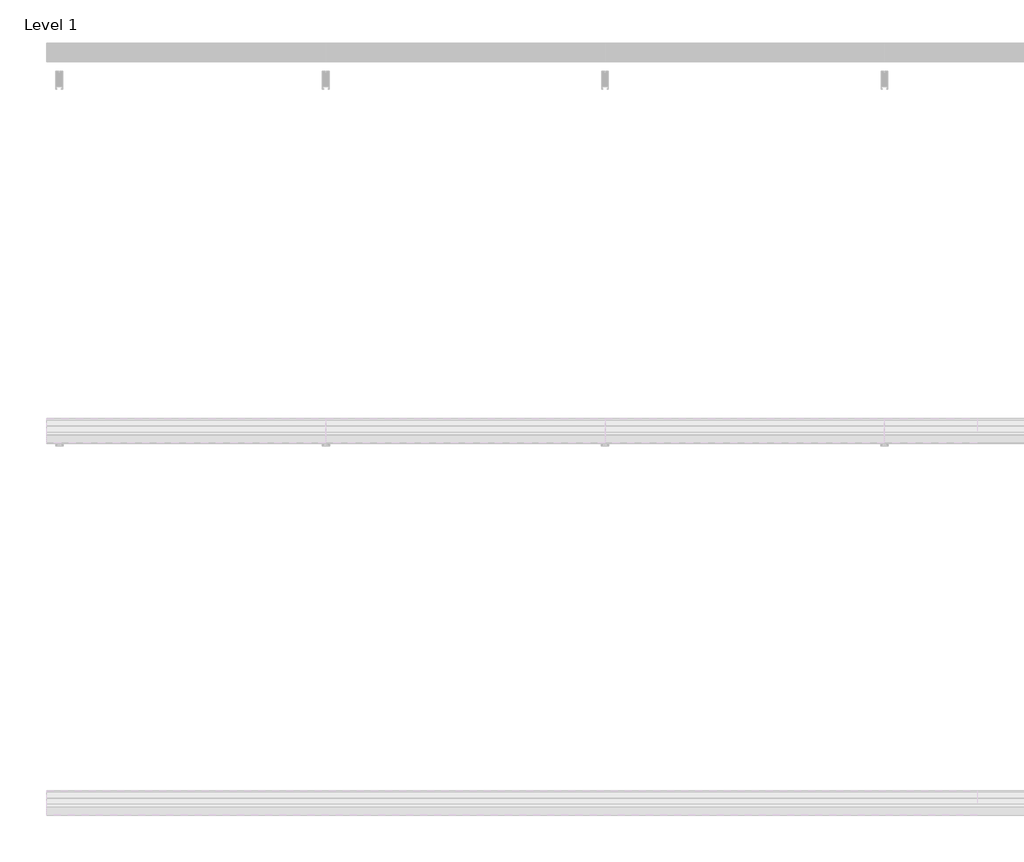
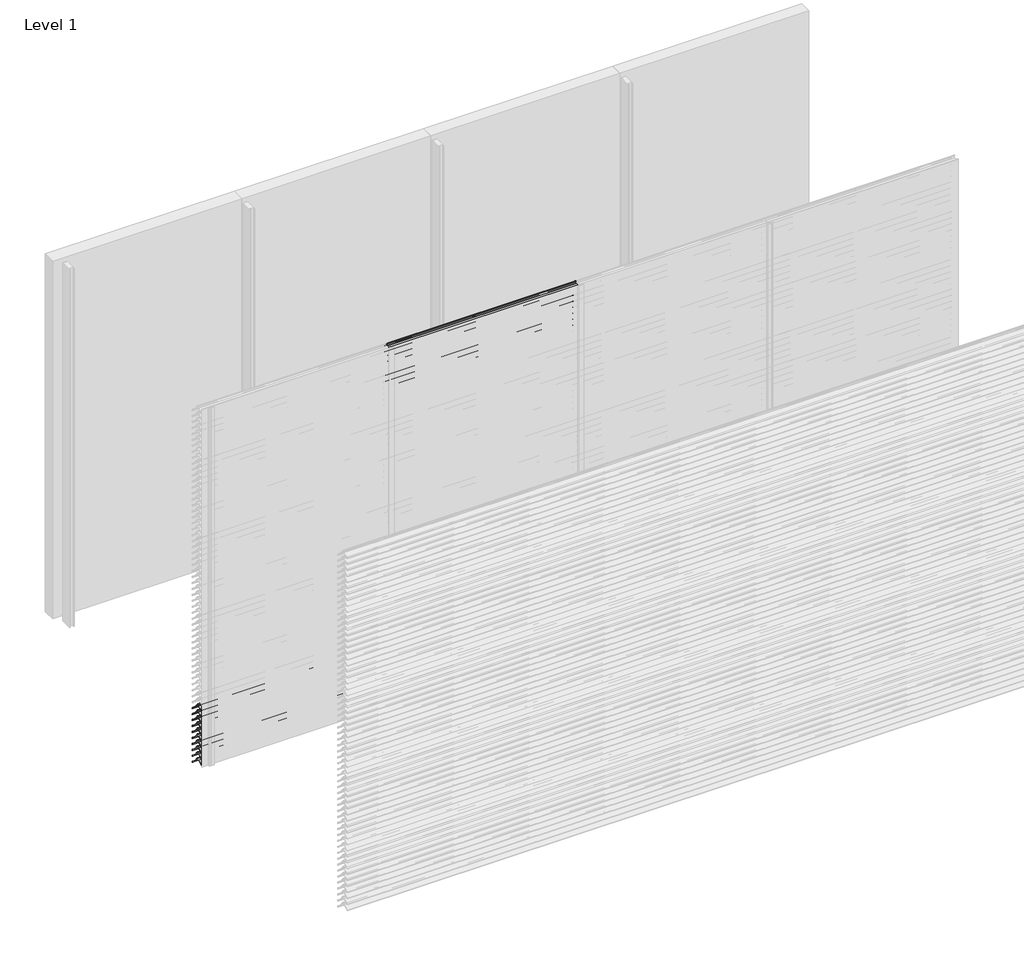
# One storey, part 95 of 173: 18 proxies.
"""IFC4 building model written with IfcOpenShell, lengths in millimetres."""

from ifc_helpers import new_model, si_unit, point, frame, frame_2d, origin, place, context, project, spatial, polyline, circle_curve, trimmed, segment, composite_curve, outline, extrude, element, save

model = new_model("IFC4")

# Units and contexts
model_context = context("Model", 3, world=origin())
ifc_project = project(units=[si_unit("LENGTHUNIT", "METRE", prefix="MILLI")], contexts=[model_context])

# Site, building, storey
site = spatial("IfcSite", under=ifc_project)
building = spatial("IfcBuilding", under=site)
storey = spatial("IfcBuildingStorey", under=building, Name="Level 1", Elevation=0.0)

# Proxies
placement = place(None, origin())
element("IfcBuildingElementProxy", 1, Name="Wall Sweeps", at=placement, inside=storey, context=model_context, shape_type="SweptSolid", body=[
    extrude(outline(composite_curve([segment(polyline([(-23998.0, 459.1474905), (-23998.0, 461.6227417)]), True, "CONTINUOUS"), segment(trimmed(circle_curve(frame_2d((-23951.2682172, 416.2200208)), 65.1557103), [point((-23998.0, 461.6227417))], [point((-23954.4014323, 481.3003524))], False, "CARTESIAN"), True, "CONTINUOUS"), segment(polyline([(-23954.4014323, 481.3003524), (-23934.8315836, 481.3003524)]), True, "CONTINUOUS"), segment(trimmed(circle_curve(frame_2d((-23732.7329489, 628.5533172)), 250.0545817), [point((-23934.8315836, 481.3003524))], [point((-23941.4452143, 490.8344583))], False, "CARTESIAN"), True, "CONTINUOUS"), segment(trimmed(circle_curve(frame_2d((-23953.2981792, 485.1737835)), 13.1352966), [point((-23941.4452143, 490.8344583))], [point((-23953.8171475, 498.298824))], True, "CARTESIAN"), True, "CONTINUOUS"), segment(polyline([(-23953.8171475, 498.298824), (-23953.8171475, 500.0)]), True, "CONTINUOUS"), segment(trimmed(circle_curve(frame_2d((-23953.2981792, 485.1737835)), 14.8352966), [point((-23953.8171475, 500.0))], [point((-23939.9637661, 491.6760487))], False, "CARTESIAN"), True, "CONTINUOUS"), segment(trimmed(circle_curve(frame_2d((-23732.7329489, 628.5533172)), 248.3545817), [point((-23939.9637661, 491.6760487))], [point((-23873.8787895, 424.2059416))], True, "CARTESIAN"), True, "CONTINUOUS"), segment(trimmed(circle_curve(frame_2d((-23883.8147537, 411.6649442)), 16.0), [point((-23873.8787895, 424.2059416))], [point((-23867.8648347, 410.4))], False, "CARTESIAN"), True, "CONTINUOUS"), segment(polyline([(-23867.8648347, 410.4), (-23869.6712069, 410.4)]), True, "CONTINUOUS"), segment(trimmed(circle_curve(frame_2d((-23883.8147537, 411.6649442)), 14.2), [point((-23869.6712069, 410.4))], [point((-23874.9518628, 422.7594998))], True, "CARTESIAN"), True, "CONTINUOUS"), segment(trimmed(circle_curve(frame_2d((-23732.7329489, 628.5533172)), 250.1545817), [point((-23874.9518628, 422.7594998))], [point((-23933.7064024, 479.6003524))], False, "CARTESIAN"), True, "CONTINUOUS"), segment(polyline([(-23933.7064024, 479.6003524), (-23954.3602632, 479.6003524)]), True, "CONTINUOUS"), segment(trimmed(circle_curve(frame_2d((-23951.2682172, 416.2200208)), 63.4557103), [point((-23954.3602632, 479.6003524))], [point((-23998.0, 459.1474905))], True, "CARTESIAN"), True, "CONTINUOUS")], self_intersect=False)), frame((0.0, 0.0, 0.0), z_axis=(1.0, 0.0, 0.0), x_axis=(0.0, 1.0, 0.0)), (0.0, 0.0, 1.0), 1500.0),
])
element("IfcBuildingElementProxy", 2, Name="Wall Sweeps", at=placement, inside=storey, context=model_context, shape_type="SweptSolid", body=[
    extrude(outline(composite_curve([segment(polyline([(-23998.0, 409.1474905), (-23998.0, 411.6227417)]), True, "CONTINUOUS"), segment(trimmed(circle_curve(frame_2d((-23951.2682172, 366.2200208)), 65.1557103), [point((-23998.0, 411.6227417))], [point((-23954.4014323, 431.3003524))], False, "CARTESIAN"), True, "CONTINUOUS"), segment(polyline([(-23954.4014323, 431.3003524), (-23934.8315836, 431.3003524)]), True, "CONTINUOUS"), segment(trimmed(circle_curve(frame_2d((-23732.7329489, 578.5533172)), 250.0545817), [point((-23934.8315836, 431.3003524))], [point((-23941.4452143, 440.8344583))], False, "CARTESIAN"), True, "CONTINUOUS"), segment(trimmed(circle_curve(frame_2d((-23953.2981792, 435.1737835)), 13.1352966), [point((-23941.4452143, 440.8344583))], [point((-23953.8171475, 448.298824))], True, "CARTESIAN"), True, "CONTINUOUS"), segment(polyline([(-23953.8171475, 448.298824), (-23953.8171475, 450.0)]), True, "CONTINUOUS"), segment(trimmed(circle_curve(frame_2d((-23953.2981792, 435.1737835)), 14.8352966), [point((-23953.8171475, 450.0))], [point((-23939.9637661, 441.6760487))], False, "CARTESIAN"), True, "CONTINUOUS"), segment(trimmed(circle_curve(frame_2d((-23732.7329489, 578.5533172)), 248.3545817), [point((-23939.9637661, 441.6760487))], [point((-23873.8787895, 374.2059416))], True, "CARTESIAN"), True, "CONTINUOUS"), segment(trimmed(circle_curve(frame_2d((-23883.8147537, 361.6649442)), 16.0), [point((-23873.8787895, 374.2059416))], [point((-23867.8648347, 360.4))], False, "CARTESIAN"), True, "CONTINUOUS"), segment(polyline([(-23867.8648347, 360.4), (-23869.6712069, 360.4)]), True, "CONTINUOUS"), segment(trimmed(circle_curve(frame_2d((-23883.8147537, 361.6649442)), 14.2), [point((-23869.6712069, 360.4))], [point((-23874.9518628, 372.7594998))], True, "CARTESIAN"), True, "CONTINUOUS"), segment(trimmed(circle_curve(frame_2d((-23732.7329489, 578.5533172)), 250.1545817), [point((-23874.9518628, 372.7594998))], [point((-23933.7064024, 429.6003524))], False, "CARTESIAN"), True, "CONTINUOUS"), segment(polyline([(-23933.7064024, 429.6003524), (-23954.3602632, 429.6003524)]), True, "CONTINUOUS"), segment(trimmed(circle_curve(frame_2d((-23951.2682172, 366.2200208)), 63.4557103), [point((-23954.3602632, 429.6003524))], [point((-23998.0, 409.1474905))], True, "CARTESIAN"), True, "CONTINUOUS")], self_intersect=False)), frame((0.0, 0.0, 0.0), z_axis=(1.0, 0.0, 0.0), x_axis=(0.0, 1.0, 0.0)), (0.0, 0.0, 1.0), 1500.0),
])
element("IfcBuildingElementProxy", 3, Name="Wall Sweeps", at=placement, inside=storey, context=model_context, shape_type="SweptSolid", body=[
    extrude(outline(composite_curve([segment(polyline([(-23998.0, 359.1474905), (-23998.0, 361.6227417)]), True, "CONTINUOUS"), segment(trimmed(circle_curve(frame_2d((-23951.2682172, 316.2200208)), 65.1557103), [point((-23998.0, 361.6227417))], [point((-23954.4014323, 381.3003524))], False, "CARTESIAN"), True, "CONTINUOUS"), segment(polyline([(-23954.4014323, 381.3003524), (-23934.8315836, 381.3003524)]), True, "CONTINUOUS"), segment(trimmed(circle_curve(frame_2d((-23732.7329489, 528.5533172)), 250.0545817), [point((-23934.8315836, 381.3003524))], [point((-23941.4452143, 390.8344583))], False, "CARTESIAN"), True, "CONTINUOUS"), segment(trimmed(circle_curve(frame_2d((-23953.2981792, 385.1737835)), 13.1352966), [point((-23941.4452143, 390.8344583))], [point((-23953.8171475, 398.298824))], True, "CARTESIAN"), True, "CONTINUOUS"), segment(polyline([(-23953.8171475, 398.298824), (-23953.8171475, 400.0)]), True, "CONTINUOUS"), segment(trimmed(circle_curve(frame_2d((-23953.2981792, 385.1737835)), 14.8352966), [point((-23953.8171475, 400.0))], [point((-23939.9637661, 391.6760487))], False, "CARTESIAN"), True, "CONTINUOUS"), segment(trimmed(circle_curve(frame_2d((-23732.7329489, 528.5533172)), 248.3545817), [point((-23939.9637661, 391.6760487))], [point((-23873.8787895, 324.2059416))], True, "CARTESIAN"), True, "CONTINUOUS"), segment(trimmed(circle_curve(frame_2d((-23883.8147537, 311.6649442)), 16.0), [point((-23873.8787895, 324.2059416))], [point((-23867.8648347, 310.4))], False, "CARTESIAN"), True, "CONTINUOUS"), segment(polyline([(-23867.8648347, 310.4), (-23869.6712069, 310.4)]), True, "CONTINUOUS"), segment(trimmed(circle_curve(frame_2d((-23883.8147537, 311.6649442)), 14.2), [point((-23869.6712069, 310.4))], [point((-23874.9518628, 322.7594998))], True, "CARTESIAN"), True, "CONTINUOUS"), segment(trimmed(circle_curve(frame_2d((-23732.7329489, 528.5533172)), 250.1545817), [point((-23874.9518628, 322.7594998))], [point((-23933.7064024, 379.6003524))], False, "CARTESIAN"), True, "CONTINUOUS"), segment(polyline([(-23933.7064024, 379.6003524), (-23954.3602632, 379.6003524)]), True, "CONTINUOUS"), segment(trimmed(circle_curve(frame_2d((-23951.2682172, 316.2200208)), 63.4557103), [point((-23954.3602632, 379.6003524))], [point((-23998.0, 359.1474905))], True, "CARTESIAN"), True, "CONTINUOUS")], self_intersect=False)), frame((0.0, 0.0, 0.0), z_axis=(1.0, 0.0, 0.0), x_axis=(0.0, 1.0, 0.0)), (0.0, 0.0, 1.0), 1500.0),
])
element("IfcBuildingElementProxy", 4, Name="Wall Sweeps", at=placement, inside=storey, context=model_context, shape_type="SweptSolid", body=[
    extrude(outline(composite_curve([segment(polyline([(-23998.0, 309.1474905), (-23998.0, 311.6227417)]), True, "CONTINUOUS"), segment(trimmed(circle_curve(frame_2d((-23951.2682172, 266.2200208)), 65.1557103), [point((-23998.0, 311.6227417))], [point((-23954.4014323, 331.3003524))], False, "CARTESIAN"), True, "CONTINUOUS"), segment(polyline([(-23954.4014323, 331.3003524), (-23934.8315836, 331.3003524)]), True, "CONTINUOUS"), segment(trimmed(circle_curve(frame_2d((-23732.7329489, 478.5533172)), 250.0545817), [point((-23934.8315836, 331.3003524))], [point((-23941.4452143, 340.8344583))], False, "CARTESIAN"), True, "CONTINUOUS"), segment(trimmed(circle_curve(frame_2d((-23953.2981792, 335.1737835)), 13.1352966), [point((-23941.4452143, 340.8344583))], [point((-23953.8171475, 348.298824))], True, "CARTESIAN"), True, "CONTINUOUS"), segment(polyline([(-23953.8171475, 348.298824), (-23953.8171475, 350.0)]), True, "CONTINUOUS"), segment(trimmed(circle_curve(frame_2d((-23953.2981792, 335.1737835)), 14.8352966), [point((-23953.8171475, 350.0))], [point((-23939.9637661, 341.6760487))], False, "CARTESIAN"), True, "CONTINUOUS"), segment(trimmed(circle_curve(frame_2d((-23732.7329489, 478.5533172)), 248.3545817), [point((-23939.9637661, 341.6760487))], [point((-23873.8787895, 274.2059416))], True, "CARTESIAN"), True, "CONTINUOUS"), segment(trimmed(circle_curve(frame_2d((-23883.8147537, 261.6649442)), 16.0), [point((-23873.8787895, 274.2059416))], [point((-23867.8648347, 260.4))], False, "CARTESIAN"), True, "CONTINUOUS"), segment(polyline([(-23867.8648347, 260.4), (-23869.6712069, 260.4)]), True, "CONTINUOUS"), segment(trimmed(circle_curve(frame_2d((-23883.8147537, 261.6649442)), 14.2), [point((-23869.6712069, 260.4))], [point((-23874.9518628, 272.7594998))], True, "CARTESIAN"), True, "CONTINUOUS"), segment(trimmed(circle_curve(frame_2d((-23732.7329489, 478.5533172)), 250.1545817), [point((-23874.9518628, 272.7594998))], [point((-23933.7064024, 329.6003524))], False, "CARTESIAN"), True, "CONTINUOUS"), segment(polyline([(-23933.7064024, 329.6003524), (-23954.3602632, 329.6003524)]), True, "CONTINUOUS"), segment(trimmed(circle_curve(frame_2d((-23951.2682172, 266.2200208)), 63.4557103), [point((-23954.3602632, 329.6003524))], [point((-23998.0, 309.1474905))], True, "CARTESIAN"), True, "CONTINUOUS")], self_intersect=False)), frame((0.0, 0.0, 0.0), z_axis=(1.0, 0.0, 0.0), x_axis=(0.0, 1.0, 0.0)), (0.0, 0.0, 1.0), 1500.0),
])
element("IfcBuildingElementProxy", 5, Name="Wall Sweeps", at=placement, inside=storey, context=model_context, shape_type="SweptSolid", body=[
    extrude(outline(composite_curve([segment(polyline([(-23998.0, 259.1474905), (-23998.0, 261.6227417)]), True, "CONTINUOUS"), segment(trimmed(circle_curve(frame_2d((-23951.2682172, 216.2200208)), 65.1557103), [point((-23998.0, 261.6227417))], [point((-23954.4014323, 281.3003524))], False, "CARTESIAN"), True, "CONTINUOUS"), segment(polyline([(-23954.4014323, 281.3003524), (-23934.8315836, 281.3003524)]), True, "CONTINUOUS"), segment(trimmed(circle_curve(frame_2d((-23732.7329489, 428.5533172)), 250.0545817), [point((-23934.8315836, 281.3003524))], [point((-23941.4452143, 290.8344583))], False, "CARTESIAN"), True, "CONTINUOUS"), segment(trimmed(circle_curve(frame_2d((-23953.2981792, 285.1737835)), 13.1352966), [point((-23941.4452143, 290.8344583))], [point((-23953.8171475, 298.298824))], True, "CARTESIAN"), True, "CONTINUOUS"), segment(polyline([(-23953.8171475, 298.298824), (-23953.8171475, 300.0)]), True, "CONTINUOUS"), segment(trimmed(circle_curve(frame_2d((-23953.2981792, 285.1737835)), 14.8352966), [point((-23953.8171475, 300.0))], [point((-23939.9637661, 291.6760487))], False, "CARTESIAN"), True, "CONTINUOUS"), segment(trimmed(circle_curve(frame_2d((-23732.7329489, 428.5533172)), 248.3545817), [point((-23939.9637661, 291.6760487))], [point((-23873.8787895, 224.2059416))], True, "CARTESIAN"), True, "CONTINUOUS"), segment(trimmed(circle_curve(frame_2d((-23883.8147537, 211.6649442)), 16.0), [point((-23873.8787895, 224.2059416))], [point((-23867.8648347, 210.4))], False, "CARTESIAN"), True, "CONTINUOUS"), segment(polyline([(-23867.8648347, 210.4), (-23869.6712069, 210.4)]), True, "CONTINUOUS"), segment(trimmed(circle_curve(frame_2d((-23883.8147537, 211.6649442)), 14.2), [point((-23869.6712069, 210.4))], [point((-23874.9518628, 222.7594998))], True, "CARTESIAN"), True, "CONTINUOUS"), segment(trimmed(circle_curve(frame_2d((-23732.7329489, 428.5533172)), 250.1545817), [point((-23874.9518628, 222.7594998))], [point((-23933.7064024, 279.6003524))], False, "CARTESIAN"), True, "CONTINUOUS"), segment(polyline([(-23933.7064024, 279.6003524), (-23954.3602632, 279.6003524)]), True, "CONTINUOUS"), segment(trimmed(circle_curve(frame_2d((-23951.2682172, 216.2200208)), 63.4557103), [point((-23954.3602632, 279.6003524))], [point((-23998.0, 259.1474905))], True, "CARTESIAN"), True, "CONTINUOUS")], self_intersect=False)), frame((0.0, 0.0, 0.0), z_axis=(1.0, 0.0, 0.0), x_axis=(0.0, 1.0, 0.0)), (0.0, 0.0, 1.0), 1500.0),
])
element("IfcBuildingElementProxy", 6, Name="Wall Sweeps", at=placement, inside=storey, context=model_context, shape_type="SweptSolid", body=[
    extrude(outline(composite_curve([segment(polyline([(-23998.0, 209.1474905), (-23998.0, 211.6227417)]), True, "CONTINUOUS"), segment(trimmed(circle_curve(frame_2d((-23951.2682172, 166.2200208)), 65.1557103), [point((-23998.0, 211.6227417))], [point((-23954.4014323, 231.3003524))], False, "CARTESIAN"), True, "CONTINUOUS"), segment(polyline([(-23954.4014323, 231.3003524), (-23934.8315836, 231.3003524)]), True, "CONTINUOUS"), segment(trimmed(circle_curve(frame_2d((-23732.7329489, 378.5533172)), 250.0545817), [point((-23934.8315836, 231.3003524))], [point((-23941.4452143, 240.8344583))], False, "CARTESIAN"), True, "CONTINUOUS"), segment(trimmed(circle_curve(frame_2d((-23953.2981792, 235.1737835)), 13.1352966), [point((-23941.4452143, 240.8344583))], [point((-23953.8171475, 248.298824))], True, "CARTESIAN"), True, "CONTINUOUS"), segment(polyline([(-23953.8171475, 248.298824), (-23953.8171475, 250.0)]), True, "CONTINUOUS"), segment(trimmed(circle_curve(frame_2d((-23953.2981792, 235.1737835)), 14.8352966), [point((-23953.8171475, 250.0))], [point((-23939.9637661, 241.6760487))], False, "CARTESIAN"), True, "CONTINUOUS"), segment(trimmed(circle_curve(frame_2d((-23732.7329489, 378.5533172)), 248.3545817), [point((-23939.9637661, 241.6760487))], [point((-23873.8787895, 174.2059416))], True, "CARTESIAN"), True, "CONTINUOUS"), segment(trimmed(circle_curve(frame_2d((-23883.8147537, 161.6649442)), 16.0), [point((-23873.8787895, 174.2059416))], [point((-23867.8648347, 160.4))], False, "CARTESIAN"), True, "CONTINUOUS"), segment(polyline([(-23867.8648347, 160.4), (-23869.6712069, 160.4)]), True, "CONTINUOUS"), segment(trimmed(circle_curve(frame_2d((-23883.8147537, 161.6649442)), 14.2), [point((-23869.6712069, 160.4))], [point((-23874.9518628, 172.7594998))], True, "CARTESIAN"), True, "CONTINUOUS"), segment(trimmed(circle_curve(frame_2d((-23732.7329489, 378.5533172)), 250.1545817), [point((-23874.9518628, 172.7594998))], [point((-23933.7064024, 229.6003524))], False, "CARTESIAN"), True, "CONTINUOUS"), segment(polyline([(-23933.7064024, 229.6003524), (-23954.3602632, 229.6003524)]), True, "CONTINUOUS"), segment(trimmed(circle_curve(frame_2d((-23951.2682172, 166.2200208)), 63.4557103), [point((-23954.3602632, 229.6003524))], [point((-23998.0, 209.1474905))], True, "CARTESIAN"), True, "CONTINUOUS")], self_intersect=False)), frame((0.0, 0.0, 0.0), z_axis=(1.0, 0.0, 0.0), x_axis=(0.0, 1.0, 0.0)), (0.0, 0.0, 1.0), 1500.0),
])
element("IfcBuildingElementProxy", 7, Name="Wall Sweeps", at=placement, inside=storey, context=model_context, shape_type="SweptSolid", body=[
    extrude(outline(composite_curve([segment(polyline([(-23998.0, 159.1474905), (-23998.0, 161.6227417)]), True, "CONTINUOUS"), segment(trimmed(circle_curve(frame_2d((-23951.2682172, 116.2200208)), 65.1557103), [point((-23998.0, 161.6227417))], [point((-23954.4014323, 181.3003524))], False, "CARTESIAN"), True, "CONTINUOUS"), segment(polyline([(-23954.4014323, 181.3003524), (-23934.8315836, 181.3003524)]), True, "CONTINUOUS"), segment(trimmed(circle_curve(frame_2d((-23732.7329489, 328.5533172)), 250.0545817), [point((-23934.8315836, 181.3003524))], [point((-23941.4452143, 190.8344583))], False, "CARTESIAN"), True, "CONTINUOUS"), segment(trimmed(circle_curve(frame_2d((-23953.2981792, 185.1737835)), 13.1352966), [point((-23941.4452143, 190.8344583))], [point((-23953.8171475, 198.298824))], True, "CARTESIAN"), True, "CONTINUOUS"), segment(polyline([(-23953.8171475, 198.298824), (-23953.8171475, 200.0)]), True, "CONTINUOUS"), segment(trimmed(circle_curve(frame_2d((-23953.2981792, 185.1737835)), 14.8352966), [point((-23953.8171475, 200.0))], [point((-23939.9637661, 191.6760487))], False, "CARTESIAN"), True, "CONTINUOUS"), segment(trimmed(circle_curve(frame_2d((-23732.7329489, 328.5533172)), 248.3545817), [point((-23939.9637661, 191.6760487))], [point((-23873.8787895, 124.2059416))], True, "CARTESIAN"), True, "CONTINUOUS"), segment(trimmed(circle_curve(frame_2d((-23883.8147537, 111.6649442)), 16.0), [point((-23873.8787895, 124.2059416))], [point((-23867.8648347, 110.4))], False, "CARTESIAN"), True, "CONTINUOUS"), segment(polyline([(-23867.8648347, 110.4), (-23869.6712069, 110.4)]), True, "CONTINUOUS"), segment(trimmed(circle_curve(frame_2d((-23883.8147537, 111.6649442)), 14.2), [point((-23869.6712069, 110.4))], [point((-23874.9518628, 122.7594998))], True, "CARTESIAN"), True, "CONTINUOUS"), segment(trimmed(circle_curve(frame_2d((-23732.7329489, 328.5533172)), 250.1545817), [point((-23874.9518628, 122.7594998))], [point((-23933.7064024, 179.6003524))], False, "CARTESIAN"), True, "CONTINUOUS"), segment(polyline([(-23933.7064024, 179.6003524), (-23954.3602632, 179.6003524)]), True, "CONTINUOUS"), segment(trimmed(circle_curve(frame_2d((-23951.2682172, 116.2200208)), 63.4557103), [point((-23954.3602632, 179.6003524))], [point((-23998.0, 159.1474905))], True, "CARTESIAN"), True, "CONTINUOUS")], self_intersect=False)), frame((0.0, 0.0, 0.0), z_axis=(1.0, 0.0, 0.0), x_axis=(0.0, 1.0, 0.0)), (0.0, 0.0, 1.0), 1500.0),
])
element("IfcBuildingElementProxy", 8, Name="Wall Sweeps", at=placement, inside=storey, context=model_context, shape_type="SweptSolid", body=[
    extrude(outline(composite_curve([segment(polyline([(-23998.0, 109.1474905), (-23998.0, 111.6227417)]), True, "CONTINUOUS"), segment(trimmed(circle_curve(frame_2d((-23951.2682172, 66.2200208)), 65.1557103), [point((-23998.0, 111.6227417))], [point((-23954.4014323, 131.3003524))], False, "CARTESIAN"), True, "CONTINUOUS"), segment(polyline([(-23954.4014323, 131.3003524), (-23934.8315836, 131.3003524)]), True, "CONTINUOUS"), segment(trimmed(circle_curve(frame_2d((-23732.7329489, 278.5533172)), 250.0545817), [point((-23934.8315836, 131.3003524))], [point((-23941.4452143, 140.8344583))], False, "CARTESIAN"), True, "CONTINUOUS"), segment(trimmed(circle_curve(frame_2d((-23953.2981792, 135.1737835)), 13.1352966), [point((-23941.4452143, 140.8344583))], [point((-23953.8171475, 148.298824))], True, "CARTESIAN"), True, "CONTINUOUS"), segment(polyline([(-23953.8171475, 148.298824), (-23953.8171475, 150.0)]), True, "CONTINUOUS"), segment(trimmed(circle_curve(frame_2d((-23953.2981792, 135.1737835)), 14.8352966), [point((-23953.8171475, 150.0))], [point((-23939.9637661, 141.6760487))], False, "CARTESIAN"), True, "CONTINUOUS"), segment(trimmed(circle_curve(frame_2d((-23732.7329489, 278.5533172)), 248.3545817), [point((-23939.9637661, 141.6760487))], [point((-23873.8787895, 74.2059416))], True, "CARTESIAN"), True, "CONTINUOUS"), segment(trimmed(circle_curve(frame_2d((-23883.8147537, 61.6649442)), 16.0), [point((-23873.8787895, 74.2059416))], [point((-23867.8648347, 60.4))], False, "CARTESIAN"), True, "CONTINUOUS"), segment(polyline([(-23867.8648347, 60.4), (-23869.6712069, 60.4)]), True, "CONTINUOUS"), segment(trimmed(circle_curve(frame_2d((-23883.8147537, 61.6649442)), 14.2), [point((-23869.6712069, 60.4))], [point((-23874.9518628, 72.7594998))], True, "CARTESIAN"), True, "CONTINUOUS"), segment(trimmed(circle_curve(frame_2d((-23732.7329489, 278.5533172)), 250.1545817), [point((-23874.9518628, 72.7594998))], [point((-23933.7064024, 129.6003524))], False, "CARTESIAN"), True, "CONTINUOUS"), segment(polyline([(-23933.7064024, 129.6003524), (-23954.3602632, 129.6003524)]), True, "CONTINUOUS"), segment(trimmed(circle_curve(frame_2d((-23951.2682172, 66.2200208)), 63.4557103), [point((-23954.3602632, 129.6003524))], [point((-23998.0, 109.1474905))], True, "CARTESIAN"), True, "CONTINUOUS")], self_intersect=False)), frame((0.0, 0.0, 0.0), z_axis=(1.0, 0.0, 0.0), x_axis=(0.0, 1.0, 0.0)), (0.0, 0.0, 1.0), 1500.0),
])
element("IfcBuildingElementProxy", 9, Name="Wall Sweeps", at=placement, inside=storey, context=model_context, shape_type="SweptSolid", body=[
    extrude(outline(composite_curve([segment(polyline([(-23998.0, 59.1474905), (-23998.0, 61.6227417)]), True, "CONTINUOUS"), segment(trimmed(circle_curve(frame_2d((-23951.2682172, 16.2200208)), 65.1557103), [point((-23998.0, 61.6227417))], [point((-23954.4014323, 81.3003524))], False, "CARTESIAN"), True, "CONTINUOUS"), segment(polyline([(-23954.4014323, 81.3003524), (-23934.8315836, 81.3003524)]), True, "CONTINUOUS"), segment(trimmed(circle_curve(frame_2d((-23732.7329489, 228.5533172)), 250.0545817), [point((-23934.8315836, 81.3003524))], [point((-23941.4452143, 90.8344583))], False, "CARTESIAN"), True, "CONTINUOUS"), segment(trimmed(circle_curve(frame_2d((-23953.2981792, 85.1737835)), 13.1352966), [point((-23941.4452143, 90.8344583))], [point((-23953.8171475, 98.298824))], True, "CARTESIAN"), True, "CONTINUOUS"), segment(polyline([(-23953.8171475, 98.298824), (-23953.8171475, 100.0)]), True, "CONTINUOUS"), segment(trimmed(circle_curve(frame_2d((-23953.2981792, 85.1737835)), 14.8352966), [point((-23953.8171475, 100.0))], [point((-23939.9637661, 91.6760487))], False, "CARTESIAN"), True, "CONTINUOUS"), segment(trimmed(circle_curve(frame_2d((-23732.7329489, 228.5533172)), 248.3545817), [point((-23939.9637661, 91.6760487))], [point((-23873.8787895, 24.2059416))], True, "CARTESIAN"), True, "CONTINUOUS"), segment(trimmed(circle_curve(frame_2d((-23883.8147537, 11.6649442)), 16.0), [point((-23873.8787895, 24.2059416))], [point((-23867.8648347, 10.4))], False, "CARTESIAN"), True, "CONTINUOUS"), segment(polyline([(-23867.8648347, 10.4), (-23869.6712069, 10.4)]), True, "CONTINUOUS"), segment(trimmed(circle_curve(frame_2d((-23883.8147537, 11.6649442)), 14.2), [point((-23869.6712069, 10.4))], [point((-23874.9518628, 22.7594998))], True, "CARTESIAN"), True, "CONTINUOUS"), segment(trimmed(circle_curve(frame_2d((-23732.7329489, 228.5533172)), 250.1545817), [point((-23874.9518628, 22.7594998))], [point((-23933.7064024, 79.6003524))], False, "CARTESIAN"), True, "CONTINUOUS"), segment(polyline([(-23933.7064024, 79.6003524), (-23954.3602632, 79.6003524)]), True, "CONTINUOUS"), segment(trimmed(circle_curve(frame_2d((-23951.2682172, 16.2200208)), 63.4557103), [point((-23954.3602632, 79.6003524))], [point((-23998.0, 59.1474905))], True, "CARTESIAN"), True, "CONTINUOUS")], self_intersect=False)), frame((0.0, 0.0, 0.0), z_axis=(1.0, 0.0, 0.0), x_axis=(0.0, 1.0, 0.0)), (0.0, 0.0, 1.0), 1500.0),
])
element("IfcBuildingElementProxy", 10, Name="Wall Sweeps", at=placement, inside=storey, context=model_context, shape_type="SweptSolid", body=[
    extrude(outline(composite_curve([segment(polyline([(-23998.0, 9.1474905), (-23998.0, 11.6227417)]), True, "CONTINUOUS"), segment(trimmed(circle_curve(frame_2d((-23951.2682172, -33.7799792)), 65.1557103), [point((-23998.0, 11.6227417))], [point((-23954.4014323, 31.3003524))], False, "CARTESIAN"), True, "CONTINUOUS"), segment(polyline([(-23954.4014323, 31.3003524), (-23934.8315836, 31.3003524)]), True, "CONTINUOUS"), segment(trimmed(circle_curve(frame_2d((-23732.7329489, 178.5533172)), 250.0545817), [point((-23934.8315836, 31.3003524))], [point((-23941.4452143, 40.8344583))], False, "CARTESIAN"), True, "CONTINUOUS"), segment(trimmed(circle_curve(frame_2d((-23953.2981792, 35.1737835)), 13.1352966), [point((-23941.4452143, 40.8344583))], [point((-23953.8171475, 48.298824))], True, "CARTESIAN"), True, "CONTINUOUS"), segment(polyline([(-23953.8171475, 48.298824), (-23953.8171475, 50.0)]), True, "CONTINUOUS"), segment(trimmed(circle_curve(frame_2d((-23953.2981792, 35.1737835)), 14.8352966), [point((-23953.8171475, 50.0))], [point((-23939.9637661, 41.6760487))], False, "CARTESIAN"), True, "CONTINUOUS"), segment(trimmed(circle_curve(frame_2d((-23732.7329489, 178.5533172)), 248.3545817), [point((-23939.9637661, 41.6760487))], [point((-23873.8787895, -25.7940584))], True, "CARTESIAN"), True, "CONTINUOUS"), segment(trimmed(circle_curve(frame_2d((-23883.8147537, -38.3350558)), 16.0), [point((-23873.8787895, -25.7940584))], [point((-23867.8648347, -39.6))], False, "CARTESIAN"), True, "CONTINUOUS"), segment(polyline([(-23867.8648347, -39.6), (-23869.6712069, -39.6)]), True, "CONTINUOUS"), segment(trimmed(circle_curve(frame_2d((-23883.8147537, -38.3350558)), 14.2), [point((-23869.6712069, -39.6))], [point((-23874.9518628, -27.2405002))], True, "CARTESIAN"), True, "CONTINUOUS"), segment(trimmed(circle_curve(frame_2d((-23732.7329489, 178.5533172)), 250.1545817), [point((-23874.9518628, -27.2405002))], [point((-23933.7064024, 29.6003524))], False, "CARTESIAN"), True, "CONTINUOUS"), segment(polyline([(-23933.7064024, 29.6003524), (-23954.3602632, 29.6003524)]), True, "CONTINUOUS"), segment(trimmed(circle_curve(frame_2d((-23951.2682172, -33.7799792)), 63.4557103), [point((-23954.3602632, 29.6003524))], [point((-23998.0, 9.1474905))], True, "CARTESIAN"), True, "CONTINUOUS")], self_intersect=False)), frame((0.0, 0.0, 0.0), z_axis=(1.0, 0.0, 0.0), x_axis=(0.0, 1.0, 0.0)), (0.0, 0.0, 1.0), 1500.0),
])
element("IfcBuildingElementProxy", 11, Name="Wall Sweeps", at=placement, inside=storey, context=model_context, shape_type="SweptSolid", body=[
    extrude(outline(composite_curve([segment(polyline([(-23998.0, 2959.1474905), (-23998.0, 2961.6227417)]), True, "CONTINUOUS"), segment(trimmed(circle_curve(frame_2d((-23951.2682172, 2916.2200208)), 65.1557103), [point((-23998.0, 2961.6227417))], [point((-23954.4014323, 2981.3003524))], False, "CARTESIAN"), True, "CONTINUOUS"), segment(polyline([(-23954.4014323, 2981.3003524), (-23934.8315836, 2981.3003524)]), True, "CONTINUOUS"), segment(trimmed(circle_curve(frame_2d((-23732.7329489, 3128.5533172)), 250.0545817), [point((-23934.8315836, 2981.3003524))], [point((-23941.4452143, 2990.8344583))], False, "CARTESIAN"), True, "CONTINUOUS"), segment(trimmed(circle_curve(frame_2d((-23953.2981792, 2985.1737835)), 13.1352966), [point((-23941.4452143, 2990.8344583))], [point((-23953.8171475, 2998.298824))], True, "CARTESIAN"), True, "CONTINUOUS"), segment(polyline([(-23953.8171475, 2998.298824), (-23953.8171475, 3000.0)]), True, "CONTINUOUS"), segment(trimmed(circle_curve(frame_2d((-23953.2981792, 2985.1737835)), 14.8352966), [point((-23953.8171475, 3000.0))], [point((-23939.9637661, 2991.6760487))], False, "CARTESIAN"), True, "CONTINUOUS"), segment(trimmed(circle_curve(frame_2d((-23732.7329489, 3128.5533172)), 248.3545817), [point((-23939.9637661, 2991.6760487))], [point((-23873.8787895, 2924.2059416))], True, "CARTESIAN"), True, "CONTINUOUS"), segment(trimmed(circle_curve(frame_2d((-23883.8147537, 2911.6649442)), 16.0), [point((-23873.8787895, 2924.2059416))], [point((-23867.8648347, 2910.4))], False, "CARTESIAN"), True, "CONTINUOUS"), segment(polyline([(-23867.8648347, 2910.4), (-23869.6712069, 2910.4)]), True, "CONTINUOUS"), segment(trimmed(circle_curve(frame_2d((-23883.8147537, 2911.6649442)), 14.2), [point((-23869.6712069, 2910.4))], [point((-23874.9518628, 2922.7594998))], True, "CARTESIAN"), True, "CONTINUOUS"), segment(trimmed(circle_curve(frame_2d((-23732.7329489, 3128.5533172)), 250.1545817), [point((-23874.9518628, 2922.7594998))], [point((-23933.7064024, 2979.6003524))], False, "CARTESIAN"), True, "CONTINUOUS"), segment(polyline([(-23933.7064024, 2979.6003524), (-23954.3602632, 2979.6003524)]), True, "CONTINUOUS"), segment(trimmed(circle_curve(frame_2d((-23951.2682172, 2916.2200208)), 63.4557103), [point((-23954.3602632, 2979.6003524))], [point((-23998.0, 2959.1474905))], True, "CARTESIAN"), True, "CONTINUOUS")], self_intersect=False)), frame((1500.0, 0.0, 0.0), z_axis=(1.0, 0.0, 0.0), x_axis=(0.0, 1.0, 0.0)), (0.0, 0.0, 1.0), 1500.0),
])
element("IfcBuildingElementProxy", 12, Name="Wall Sweeps", at=placement, inside=storey, context=model_context, shape_type="SweptSolid", body=[
    extrude(outline(composite_curve([segment(polyline([(-23998.0, 2909.1474905), (-23998.0, 2911.6227417)]), True, "CONTINUOUS"), segment(trimmed(circle_curve(frame_2d((-23951.2682172, 2866.2200208)), 65.1557103), [point((-23998.0, 2911.6227417))], [point((-23954.4014323, 2931.3003524))], False, "CARTESIAN"), True, "CONTINUOUS"), segment(polyline([(-23954.4014323, 2931.3003524), (-23934.8315836, 2931.3003524)]), True, "CONTINUOUS"), segment(trimmed(circle_curve(frame_2d((-23732.7329489, 3078.5533172)), 250.0545817), [point((-23934.8315836, 2931.3003524))], [point((-23941.4452143, 2940.8344583))], False, "CARTESIAN"), True, "CONTINUOUS"), segment(trimmed(circle_curve(frame_2d((-23953.2981792, 2935.1737835)), 13.1352966), [point((-23941.4452143, 2940.8344583))], [point((-23953.8171475, 2948.298824))], True, "CARTESIAN"), True, "CONTINUOUS"), segment(polyline([(-23953.8171475, 2948.298824), (-23953.8171475, 2950.0)]), True, "CONTINUOUS"), segment(trimmed(circle_curve(frame_2d((-23953.2981792, 2935.1737835)), 14.8352966), [point((-23953.8171475, 2950.0))], [point((-23939.9637661, 2941.6760487))], False, "CARTESIAN"), True, "CONTINUOUS"), segment(trimmed(circle_curve(frame_2d((-23732.7329489, 3078.5533172)), 248.3545817), [point((-23939.9637661, 2941.6760487))], [point((-23873.8787895, 2874.2059416))], True, "CARTESIAN"), True, "CONTINUOUS"), segment(trimmed(circle_curve(frame_2d((-23883.8147537, 2861.6649442)), 16.0), [point((-23873.8787895, 2874.2059416))], [point((-23867.8648347, 2860.4))], False, "CARTESIAN"), True, "CONTINUOUS"), segment(polyline([(-23867.8648347, 2860.4), (-23869.6712069, 2860.4)]), True, "CONTINUOUS"), segment(trimmed(circle_curve(frame_2d((-23883.8147537, 2861.6649442)), 14.2), [point((-23869.6712069, 2860.4))], [point((-23874.9518628, 2872.7594998))], True, "CARTESIAN"), True, "CONTINUOUS"), segment(trimmed(circle_curve(frame_2d((-23732.7329489, 3078.5533172)), 250.1545817), [point((-23874.9518628, 2872.7594998))], [point((-23933.7064024, 2929.6003524))], False, "CARTESIAN"), True, "CONTINUOUS"), segment(polyline([(-23933.7064024, 2929.6003524), (-23954.3602632, 2929.6003524)]), True, "CONTINUOUS"), segment(trimmed(circle_curve(frame_2d((-23951.2682172, 2866.2200208)), 63.4557103), [point((-23954.3602632, 2929.6003524))], [point((-23998.0, 2909.1474905))], True, "CARTESIAN"), True, "CONTINUOUS")], self_intersect=False)), frame((1500.0, 0.0, 0.0), z_axis=(1.0, 0.0, 0.0), x_axis=(0.0, 1.0, 0.0)), (0.0, 0.0, 1.0), 1500.0),
])
element("IfcBuildingElementProxy", 13, Name="Wall Sweeps", at=placement, inside=storey, context=model_context, shape_type="SweptSolid", body=[
    extrude(outline(composite_curve([segment(polyline([(-23998.0, 2859.1474905), (-23998.0, 2861.6227417)]), True, "CONTINUOUS"), segment(trimmed(circle_curve(frame_2d((-23951.2682172, 2816.2200208)), 65.1557103), [point((-23998.0, 2861.6227417))], [point((-23954.4014323, 2881.3003524))], False, "CARTESIAN"), True, "CONTINUOUS"), segment(polyline([(-23954.4014323, 2881.3003524), (-23934.8315836, 2881.3003524)]), True, "CONTINUOUS"), segment(trimmed(circle_curve(frame_2d((-23732.7329489, 3028.5533172)), 250.0545817), [point((-23934.8315836, 2881.3003524))], [point((-23941.4452143, 2890.8344583))], False, "CARTESIAN"), True, "CONTINUOUS"), segment(trimmed(circle_curve(frame_2d((-23953.2981792, 2885.1737835)), 13.1352966), [point((-23941.4452143, 2890.8344583))], [point((-23953.8171475, 2898.298824))], True, "CARTESIAN"), True, "CONTINUOUS"), segment(polyline([(-23953.8171475, 2898.298824), (-23953.8171475, 2900.0)]), True, "CONTINUOUS"), segment(trimmed(circle_curve(frame_2d((-23953.2981792, 2885.1737835)), 14.8352966), [point((-23953.8171475, 2900.0))], [point((-23939.9637661, 2891.6760487))], False, "CARTESIAN"), True, "CONTINUOUS"), segment(trimmed(circle_curve(frame_2d((-23732.7329489, 3028.5533172)), 248.3545817), [point((-23939.9637661, 2891.6760487))], [point((-23873.8787895, 2824.2059416))], True, "CARTESIAN"), True, "CONTINUOUS"), segment(trimmed(circle_curve(frame_2d((-23883.8147537, 2811.6649442)), 16.0), [point((-23873.8787895, 2824.2059416))], [point((-23867.8648347, 2810.4))], False, "CARTESIAN"), True, "CONTINUOUS"), segment(polyline([(-23867.8648347, 2810.4), (-23869.6712069, 2810.4)]), True, "CONTINUOUS"), segment(trimmed(circle_curve(frame_2d((-23883.8147537, 2811.6649442)), 14.2), [point((-23869.6712069, 2810.4))], [point((-23874.9518628, 2822.7594998))], True, "CARTESIAN"), True, "CONTINUOUS"), segment(trimmed(circle_curve(frame_2d((-23732.7329489, 3028.5533172)), 250.1545817), [point((-23874.9518628, 2822.7594998))], [point((-23933.7064024, 2879.6003524))], False, "CARTESIAN"), True, "CONTINUOUS"), segment(polyline([(-23933.7064024, 2879.6003524), (-23954.3602632, 2879.6003524)]), True, "CONTINUOUS"), segment(trimmed(circle_curve(frame_2d((-23951.2682172, 2816.2200208)), 63.4557103), [point((-23954.3602632, 2879.6003524))], [point((-23998.0, 2859.1474905))], True, "CARTESIAN"), True, "CONTINUOUS")], self_intersect=False)), frame((1500.0, 0.0, 0.0), z_axis=(1.0, 0.0, 0.0), x_axis=(0.0, 1.0, 0.0)), (0.0, 0.0, 1.0), 1500.0),
])
element("IfcBuildingElementProxy", 14, Name="Wall Sweeps", at=placement, inside=storey, context=model_context, shape_type="SweptSolid", body=[
    extrude(outline(composite_curve([segment(polyline([(-23998.0, 2809.1474905), (-23998.0, 2811.6227417)]), True, "CONTINUOUS"), segment(trimmed(circle_curve(frame_2d((-23951.2682172, 2766.2200208)), 65.1557103), [point((-23998.0, 2811.6227417))], [point((-23954.4014323, 2831.3003524))], False, "CARTESIAN"), True, "CONTINUOUS"), segment(polyline([(-23954.4014323, 2831.3003524), (-23934.8315836, 2831.3003524)]), True, "CONTINUOUS"), segment(trimmed(circle_curve(frame_2d((-23732.7329489, 2978.5533172)), 250.0545817), [point((-23934.8315836, 2831.3003524))], [point((-23941.4452143, 2840.8344583))], False, "CARTESIAN"), True, "CONTINUOUS"), segment(trimmed(circle_curve(frame_2d((-23953.2981792, 2835.1737835)), 13.1352966), [point((-23941.4452143, 2840.8344583))], [point((-23953.8171475, 2848.298824))], True, "CARTESIAN"), True, "CONTINUOUS"), segment(polyline([(-23953.8171475, 2848.298824), (-23953.8171475, 2850.0)]), True, "CONTINUOUS"), segment(trimmed(circle_curve(frame_2d((-23953.2981792, 2835.1737835)), 14.8352966), [point((-23953.8171475, 2850.0))], [point((-23939.9637661, 2841.6760487))], False, "CARTESIAN"), True, "CONTINUOUS"), segment(trimmed(circle_curve(frame_2d((-23732.7329489, 2978.5533172)), 248.3545817), [point((-23939.9637661, 2841.6760487))], [point((-23873.8787895, 2774.2059416))], True, "CARTESIAN"), True, "CONTINUOUS"), segment(trimmed(circle_curve(frame_2d((-23883.8147537, 2761.6649442)), 16.0), [point((-23873.8787895, 2774.2059416))], [point((-23867.8648347, 2760.4))], False, "CARTESIAN"), True, "CONTINUOUS"), segment(polyline([(-23867.8648347, 2760.4), (-23869.6712069, 2760.4)]), True, "CONTINUOUS"), segment(trimmed(circle_curve(frame_2d((-23883.8147537, 2761.6649442)), 14.2), [point((-23869.6712069, 2760.4))], [point((-23874.9518628, 2772.7594998))], True, "CARTESIAN"), True, "CONTINUOUS"), segment(trimmed(circle_curve(frame_2d((-23732.7329489, 2978.5533172)), 250.1545817), [point((-23874.9518628, 2772.7594998))], [point((-23933.7064024, 2829.6003524))], False, "CARTESIAN"), True, "CONTINUOUS"), segment(polyline([(-23933.7064024, 2829.6003524), (-23954.3602632, 2829.6003524)]), True, "CONTINUOUS"), segment(trimmed(circle_curve(frame_2d((-23951.2682172, 2766.2200208)), 63.4557103), [point((-23954.3602632, 2829.6003524))], [point((-23998.0, 2809.1474905))], True, "CARTESIAN"), True, "CONTINUOUS")], self_intersect=False)), frame((1500.0, 0.0, 0.0), z_axis=(1.0, 0.0, 0.0), x_axis=(0.0, 1.0, 0.0)), (0.0, 0.0, 1.0), 1500.0),
])
element("IfcBuildingElementProxy", 15, Name="Wall Sweeps", at=placement, inside=storey, context=model_context, shape_type="SweptSolid", body=[
    extrude(outline(composite_curve([segment(polyline([(-23998.0, 2759.1474905), (-23998.0, 2761.6227417)]), True, "CONTINUOUS"), segment(trimmed(circle_curve(frame_2d((-23951.2682172, 2716.2200208)), 65.1557103), [point((-23998.0, 2761.6227417))], [point((-23954.4014323, 2781.3003524))], False, "CARTESIAN"), True, "CONTINUOUS"), segment(polyline([(-23954.4014323, 2781.3003524), (-23934.8315836, 2781.3003524)]), True, "CONTINUOUS"), segment(trimmed(circle_curve(frame_2d((-23732.7329489, 2928.5533172)), 250.0545817), [point((-23934.8315836, 2781.3003524))], [point((-23941.4452143, 2790.8344583))], False, "CARTESIAN"), True, "CONTINUOUS"), segment(trimmed(circle_curve(frame_2d((-23953.2981792, 2785.1737835)), 13.1352966), [point((-23941.4452143, 2790.8344583))], [point((-23953.8171475, 2798.298824))], True, "CARTESIAN"), True, "CONTINUOUS"), segment(polyline([(-23953.8171475, 2798.298824), (-23953.8171475, 2800.0)]), True, "CONTINUOUS"), segment(trimmed(circle_curve(frame_2d((-23953.2981792, 2785.1737835)), 14.8352966), [point((-23953.8171475, 2800.0))], [point((-23939.9637661, 2791.6760487))], False, "CARTESIAN"), True, "CONTINUOUS"), segment(trimmed(circle_curve(frame_2d((-23732.7329489, 2928.5533172)), 248.3545817), [point((-23939.9637661, 2791.6760487))], [point((-23873.8787895, 2724.2059416))], True, "CARTESIAN"), True, "CONTINUOUS"), segment(trimmed(circle_curve(frame_2d((-23883.8147537, 2711.6649442)), 16.0), [point((-23873.8787895, 2724.2059416))], [point((-23867.8648347, 2710.4))], False, "CARTESIAN"), True, "CONTINUOUS"), segment(polyline([(-23867.8648347, 2710.4), (-23869.6712069, 2710.4)]), True, "CONTINUOUS"), segment(trimmed(circle_curve(frame_2d((-23883.8147537, 2711.6649442)), 14.2), [point((-23869.6712069, 2710.4))], [point((-23874.9518628, 2722.7594998))], True, "CARTESIAN"), True, "CONTINUOUS"), segment(trimmed(circle_curve(frame_2d((-23732.7329489, 2928.5533172)), 250.1545817), [point((-23874.9518628, 2722.7594998))], [point((-23933.7064024, 2779.6003524))], False, "CARTESIAN"), True, "CONTINUOUS"), segment(polyline([(-23933.7064024, 2779.6003524), (-23954.3602632, 2779.6003524)]), True, "CONTINUOUS"), segment(trimmed(circle_curve(frame_2d((-23951.2682172, 2716.2200208)), 63.4557103), [point((-23954.3602632, 2779.6003524))], [point((-23998.0, 2759.1474905))], True, "CARTESIAN"), True, "CONTINUOUS")], self_intersect=False)), frame((1500.0, 0.0, 0.0), z_axis=(1.0, 0.0, 0.0), x_axis=(0.0, 1.0, 0.0)), (0.0, 0.0, 1.0), 1500.0),
])
element("IfcBuildingElementProxy", 16, Name="Wall Sweeps", at=placement, inside=storey, context=model_context, shape_type="SweptSolid", body=[
    extrude(outline(composite_curve([segment(polyline([(-23998.0, 2709.1474905), (-23998.0, 2711.6227417)]), True, "CONTINUOUS"), segment(trimmed(circle_curve(frame_2d((-23951.2682172, 2666.2200208)), 65.1557103), [point((-23998.0, 2711.6227417))], [point((-23954.4014323, 2731.3003524))], False, "CARTESIAN"), True, "CONTINUOUS"), segment(polyline([(-23954.4014323, 2731.3003524), (-23934.8315836, 2731.3003524)]), True, "CONTINUOUS"), segment(trimmed(circle_curve(frame_2d((-23732.7329489, 2878.5533172)), 250.0545817), [point((-23934.8315836, 2731.3003524))], [point((-23941.4452143, 2740.8344583))], False, "CARTESIAN"), True, "CONTINUOUS"), segment(trimmed(circle_curve(frame_2d((-23953.2981792, 2735.1737835)), 13.1352966), [point((-23941.4452143, 2740.8344583))], [point((-23953.8171475, 2748.298824))], True, "CARTESIAN"), True, "CONTINUOUS"), segment(polyline([(-23953.8171475, 2748.298824), (-23953.8171475, 2750.0)]), True, "CONTINUOUS"), segment(trimmed(circle_curve(frame_2d((-23953.2981792, 2735.1737835)), 14.8352966), [point((-23953.8171475, 2750.0))], [point((-23939.9637661, 2741.6760487))], False, "CARTESIAN"), True, "CONTINUOUS"), segment(trimmed(circle_curve(frame_2d((-23732.7329489, 2878.5533172)), 248.3545817), [point((-23939.9637661, 2741.6760487))], [point((-23873.8787895, 2674.2059416))], True, "CARTESIAN"), True, "CONTINUOUS"), segment(trimmed(circle_curve(frame_2d((-23883.8147537, 2661.6649442)), 16.0), [point((-23873.8787895, 2674.2059416))], [point((-23867.8648347, 2660.4))], False, "CARTESIAN"), True, "CONTINUOUS"), segment(polyline([(-23867.8648347, 2660.4), (-23869.6712069, 2660.4)]), True, "CONTINUOUS"), segment(trimmed(circle_curve(frame_2d((-23883.8147537, 2661.6649442)), 14.2), [point((-23869.6712069, 2660.4))], [point((-23874.9518628, 2672.7594998))], True, "CARTESIAN"), True, "CONTINUOUS"), segment(trimmed(circle_curve(frame_2d((-23732.7329489, 2878.5533172)), 250.1545817), [point((-23874.9518628, 2672.7594998))], [point((-23933.7064024, 2729.6003524))], False, "CARTESIAN"), True, "CONTINUOUS"), segment(polyline([(-23933.7064024, 2729.6003524), (-23954.3602632, 2729.6003524)]), True, "CONTINUOUS"), segment(trimmed(circle_curve(frame_2d((-23951.2682172, 2666.2200208)), 63.4557103), [point((-23954.3602632, 2729.6003524))], [point((-23998.0, 2709.1474905))], True, "CARTESIAN"), True, "CONTINUOUS")], self_intersect=False)), frame((1500.0, 0.0, 0.0), z_axis=(1.0, 0.0, 0.0), x_axis=(0.0, 1.0, 0.0)), (0.0, 0.0, 1.0), 1500.0),
])
element("IfcBuildingElementProxy", 17, Name="Wall Sweeps", at=placement, inside=storey, context=model_context, shape_type="SweptSolid", body=[
    extrude(outline(composite_curve([segment(polyline([(-23998.0, 2659.1474905), (-23998.0, 2661.6227417)]), True, "CONTINUOUS"), segment(trimmed(circle_curve(frame_2d((-23951.2682172, 2616.2200208)), 65.1557103), [point((-23998.0, 2661.6227417))], [point((-23954.4014323, 2681.3003524))], False, "CARTESIAN"), True, "CONTINUOUS"), segment(polyline([(-23954.4014323, 2681.3003524), (-23934.8315836, 2681.3003524)]), True, "CONTINUOUS"), segment(trimmed(circle_curve(frame_2d((-23732.7329489, 2828.5533172)), 250.0545817), [point((-23934.8315836, 2681.3003524))], [point((-23941.4452143, 2690.8344583))], False, "CARTESIAN"), True, "CONTINUOUS"), segment(trimmed(circle_curve(frame_2d((-23953.2981792, 2685.1737835)), 13.1352966), [point((-23941.4452143, 2690.8344583))], [point((-23953.8171475, 2698.298824))], True, "CARTESIAN"), True, "CONTINUOUS"), segment(polyline([(-23953.8171475, 2698.298824), (-23953.8171475, 2700.0)]), True, "CONTINUOUS"), segment(trimmed(circle_curve(frame_2d((-23953.2981792, 2685.1737835)), 14.8352966), [point((-23953.8171475, 2700.0))], [point((-23939.9637661, 2691.6760487))], False, "CARTESIAN"), True, "CONTINUOUS"), segment(trimmed(circle_curve(frame_2d((-23732.7329489, 2828.5533172)), 248.3545817), [point((-23939.9637661, 2691.6760487))], [point((-23873.8787895, 2624.2059416))], True, "CARTESIAN"), True, "CONTINUOUS"), segment(trimmed(circle_curve(frame_2d((-23883.8147537, 2611.6649442)), 16.0), [point((-23873.8787895, 2624.2059416))], [point((-23867.8648347, 2610.4))], False, "CARTESIAN"), True, "CONTINUOUS"), segment(polyline([(-23867.8648347, 2610.4), (-23869.6712069, 2610.4)]), True, "CONTINUOUS"), segment(trimmed(circle_curve(frame_2d((-23883.8147537, 2611.6649442)), 14.2), [point((-23869.6712069, 2610.4))], [point((-23874.9518628, 2622.7594998))], True, "CARTESIAN"), True, "CONTINUOUS"), segment(trimmed(circle_curve(frame_2d((-23732.7329489, 2828.5533172)), 250.1545817), [point((-23874.9518628, 2622.7594998))], [point((-23933.7064024, 2679.6003524))], False, "CARTESIAN"), True, "CONTINUOUS"), segment(polyline([(-23933.7064024, 2679.6003524), (-23954.3602632, 2679.6003524)]), True, "CONTINUOUS"), segment(trimmed(circle_curve(frame_2d((-23951.2682172, 2616.2200208)), 63.4557103), [point((-23954.3602632, 2679.6003524))], [point((-23998.0, 2659.1474905))], True, "CARTESIAN"), True, "CONTINUOUS")], self_intersect=False)), frame((1500.0, 0.0, 0.0), z_axis=(1.0, 0.0, 0.0), x_axis=(0.0, 1.0, 0.0)), (0.0, 0.0, 1.0), 1500.0),
])
element("IfcBuildingElementProxy", 18, Name="Wall Sweeps", at=placement, inside=storey, context=model_context, shape_type="SweptSolid", body=[
    extrude(outline(composite_curve([segment(polyline([(-23998.0, 2609.1474905), (-23998.0, 2611.6227417)]), True, "CONTINUOUS"), segment(trimmed(circle_curve(frame_2d((-23951.2682172, 2566.2200208)), 65.1557103), [point((-23998.0, 2611.6227417))], [point((-23954.4014323, 2631.3003524))], False, "CARTESIAN"), True, "CONTINUOUS"), segment(polyline([(-23954.4014323, 2631.3003524), (-23934.8315836, 2631.3003524)]), True, "CONTINUOUS"), segment(trimmed(circle_curve(frame_2d((-23732.7329489, 2778.5533172)), 250.0545817), [point((-23934.8315836, 2631.3003524))], [point((-23941.4452143, 2640.8344583))], False, "CARTESIAN"), True, "CONTINUOUS"), segment(trimmed(circle_curve(frame_2d((-23953.2981792, 2635.1737835)), 13.1352966), [point((-23941.4452143, 2640.8344583))], [point((-23953.8171475, 2648.298824))], True, "CARTESIAN"), True, "CONTINUOUS"), segment(polyline([(-23953.8171475, 2648.298824), (-23953.8171475, 2650.0)]), True, "CONTINUOUS"), segment(trimmed(circle_curve(frame_2d((-23953.2981792, 2635.1737835)), 14.8352966), [point((-23953.8171475, 2650.0))], [point((-23939.9637661, 2641.6760487))], False, "CARTESIAN"), True, "CONTINUOUS"), segment(trimmed(circle_curve(frame_2d((-23732.7329489, 2778.5533172)), 248.3545817), [point((-23939.9637661, 2641.6760487))], [point((-23873.8787895, 2574.2059416))], True, "CARTESIAN"), True, "CONTINUOUS"), segment(trimmed(circle_curve(frame_2d((-23883.8147537, 2561.6649442)), 16.0), [point((-23873.8787895, 2574.2059416))], [point((-23867.8648347, 2560.4))], False, "CARTESIAN"), True, "CONTINUOUS"), segment(polyline([(-23867.8648347, 2560.4), (-23869.6712069, 2560.4)]), True, "CONTINUOUS"), segment(trimmed(circle_curve(frame_2d((-23883.8147537, 2561.6649442)), 14.2), [point((-23869.6712069, 2560.4))], [point((-23874.9518628, 2572.7594998))], True, "CARTESIAN"), True, "CONTINUOUS"), segment(trimmed(circle_curve(frame_2d((-23732.7329489, 2778.5533172)), 250.1545817), [point((-23874.9518628, 2572.7594998))], [point((-23933.7064024, 2629.6003524))], False, "CARTESIAN"), True, "CONTINUOUS"), segment(polyline([(-23933.7064024, 2629.6003524), (-23954.3602632, 2629.6003524)]), True, "CONTINUOUS"), segment(trimmed(circle_curve(frame_2d((-23951.2682172, 2566.2200208)), 63.4557103), [point((-23954.3602632, 2629.6003524))], [point((-23998.0, 2609.1474905))], True, "CARTESIAN"), True, "CONTINUOUS")], self_intersect=False)), frame((1500.0, 0.0, 0.0), z_axis=(1.0, 0.0, 0.0), x_axis=(0.0, 1.0, 0.0)), (0.0, 0.0, 1.0), 1500.0),
])

save(model, "model.ifc")
